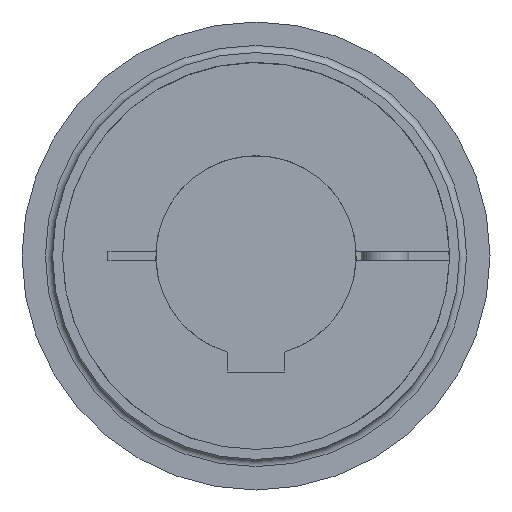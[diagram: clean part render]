
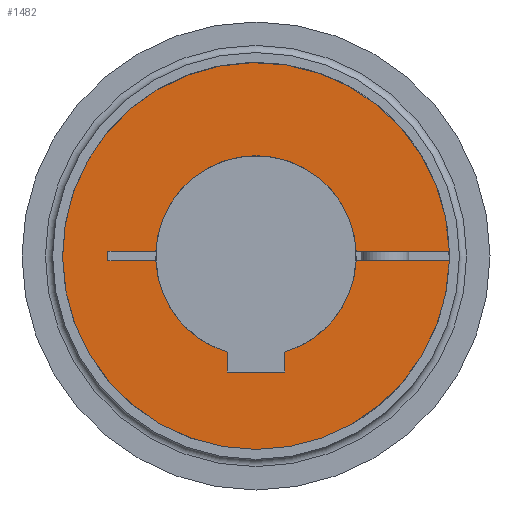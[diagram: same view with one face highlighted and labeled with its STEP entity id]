
A CAD part, left-side view. The second image highlights one B-rep face of the part: STEP entity #1482.
In plain terms, the highlighted planar face has unit normal (-1, 0, 0).
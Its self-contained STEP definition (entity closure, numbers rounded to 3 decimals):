
#24=PLANE('',#1695);
#141=LINE('',#2678,#244);
#144=LINE('',#2684,#247);
#145=LINE('',#2686,#248);
#156=LINE('',#2707,#259);
#157=LINE('',#2709,#260);
#158=LINE('',#2711,#261);
#159=LINE('',#2713,#262);
#160=LINE('',#2714,#263);
#244=VECTOR('',#2053,1.);
#247=VECTOR('',#2058,1.);
#248=VECTOR('',#2061,1.);
#259=VECTOR('',#2084,1.);
#260=VECTOR('',#2087,1.);
#261=VECTOR('',#2088,1.);
#262=VECTOR('',#2089,1.);
#263=VECTOR('',#2090,1.);
#375=FACE_OUTER_BOUND('',#470,.T.);
#470=EDGE_LOOP('',(#1224,#1225,#1226,#1227,#1228,#1229,#1230,#1231,#1232,
#1233,#1234,#1235,#1236));
#604=CIRCLE('',#1630,40.5);
#607=CIRCLE('',#1633,40.5);
#638=CIRCLE('',#1679,21.);
#641=CIRCLE('',#1683,21.);
#643=CIRCLE('',#1685,21.);
#697=VERTEX_POINT('',#2374);
#698=VERTEX_POINT('',#2376);
#703=VERTEX_POINT('',#2386);
#744=VERTEX_POINT('',#2648);
#745=VERTEX_POINT('',#2649);
#750=VERTEX_POINT('',#2660);
#751=VERTEX_POINT('',#2662);
#754=VERTEX_POINT('',#2668);
#755=VERTEX_POINT('',#2670);
#757=VERTEX_POINT('',#2676);
#759=VERTEX_POINT('',#2682);
#764=VERTEX_POINT('',#2710);
#765=VERTEX_POINT('',#2712);
#862=EDGE_CURVE('',#697,#698,#604,.T.);
#868=EDGE_CURVE('',#703,#697,#607,.T.);
#921=EDGE_CURVE('',#744,#745,#638,.T.);
#927=EDGE_CURVE('',#751,#750,#641,.T.);
#931=EDGE_CURVE('',#755,#754,#643,.T.);
#935=EDGE_CURVE('',#754,#757,#141,.T.);
#938=EDGE_CURVE('',#757,#759,#144,.T.);
#939=EDGE_CURVE('',#759,#751,#145,.T.);
#950=EDGE_CURVE('',#745,#698,#156,.T.);
#951=EDGE_CURVE('',#703,#755,#157,.T.);
#952=EDGE_CURVE('',#750,#764,#158,.T.);
#953=EDGE_CURVE('',#764,#765,#159,.T.);
#954=EDGE_CURVE('',#765,#744,#160,.T.);
#1224=ORIENTED_EDGE('',*,*,#921,.T.);
#1225=ORIENTED_EDGE('',*,*,#950,.T.);
#1226=ORIENTED_EDGE('',*,*,#862,.F.);
#1227=ORIENTED_EDGE('',*,*,#868,.F.);
#1228=ORIENTED_EDGE('',*,*,#951,.T.);
#1229=ORIENTED_EDGE('',*,*,#931,.T.);
#1230=ORIENTED_EDGE('',*,*,#935,.T.);
#1231=ORIENTED_EDGE('',*,*,#938,.T.);
#1232=ORIENTED_EDGE('',*,*,#939,.T.);
#1233=ORIENTED_EDGE('',*,*,#927,.T.);
#1234=ORIENTED_EDGE('',*,*,#952,.T.);
#1235=ORIENTED_EDGE('',*,*,#953,.T.);
#1236=ORIENTED_EDGE('',*,*,#954,.T.);
#1482=ADVANCED_FACE('',(#375),#24,.T.);
#1630=AXIS2_PLACEMENT_3D('',#2377,#1912,#1913);
#1633=AXIS2_PLACEMENT_3D('',#2388,#1921,#1922);
#1679=AXIS2_PLACEMENT_3D('',#2650,#2029,#2030);
#1683=AXIS2_PLACEMENT_3D('',#2663,#2040,#2041);
#1685=AXIS2_PLACEMENT_3D('',#2671,#2046,#2047);
#1695=AXIS2_PLACEMENT_3D('',#2708,#2085,#2086);
#1912=DIRECTION('center_axis',(1.,0.,0.));
#1913=DIRECTION('ref_axis',(0.,0.,1.));
#1921=DIRECTION('center_axis',(1.,0.,0.));
#1922=DIRECTION('ref_axis',(0.,0.,1.));
#2029=DIRECTION('center_axis',(1.,0.,0.));
#2030=DIRECTION('ref_axis',(0.,0.,-1.));
#2040=DIRECTION('center_axis',(1.,0.,0.));
#2041=DIRECTION('ref_axis',(0.,0.,-1.));
#2046=DIRECTION('center_axis',(1.,0.,0.));
#2047=DIRECTION('ref_axis',(0.,0.,-1.));
#2053=DIRECTION('',(0.,0.,-1.));
#2058=DIRECTION('',(0.,1.,0.));
#2061=DIRECTION('',(0.,0.,1.));
#2084=DIRECTION('',(0.,-1.,0.));
#2085=DIRECTION('center_axis',(-1.,0.,0.));
#2086=DIRECTION('ref_axis',(0.,0.,-1.));
#2087=DIRECTION('',(0.,1.,0.));
#2088=DIRECTION('',(0.,1.,0.));
#2089=DIRECTION('',(0.,0.,1.));
#2090=DIRECTION('',(0.,-1.,0.));
#2374=CARTESIAN_POINT('',(0.,0.,-40.5));
#2376=CARTESIAN_POINT('',(0.,-40.488,1.));
#2377=CARTESIAN_POINT('Origin',(0.,0.,0.));
#2386=CARTESIAN_POINT('',(0.,-40.488,-1.));
#2388=CARTESIAN_POINT('Origin',(0.,0.,0.));
#2648=CARTESIAN_POINT('',(0.,20.976,1.));
#2649=CARTESIAN_POINT('',(0.,-20.976,1.));
#2650=CARTESIAN_POINT('Origin',(0.,0.,0.));
#2660=CARTESIAN_POINT('',(0.,20.976,-1.));
#2662=CARTESIAN_POINT('',(0.,6.,-20.125));
#2663=CARTESIAN_POINT('Origin',(0.,0.,0.));
#2668=CARTESIAN_POINT('',(0.,-6.,-20.125));
#2670=CARTESIAN_POINT('',(0.,-20.976,-1.));
#2671=CARTESIAN_POINT('Origin',(0.,0.,0.));
#2676=CARTESIAN_POINT('',(0.,-6.,-24.3));
#2678=CARTESIAN_POINT('',(0.,-6.,4.05));
#2682=CARTESIAN_POINT('',(0.,6.,-24.3));
#2684=CARTESIAN_POINT('',(0.,0.,-24.3));
#2686=CARTESIAN_POINT('',(0.,6.,4.05));
#2707=CARTESIAN_POINT('',(0.,-2.625,1.));
#2708=CARTESIAN_POINT('Origin',(0.,0.,20.25));
#2709=CARTESIAN_POINT('',(0.,-2.625,-1.));
#2710=CARTESIAN_POINT('',(0.,31.,-1.));
#2711=CARTESIAN_POINT('',(0.,-2.625,-1.));
#2712=CARTESIAN_POINT('',(0.,31.,1.));
#2713=CARTESIAN_POINT('',(0.,31.,10.125));
#2714=CARTESIAN_POINT('',(0.,-2.625,1.));
